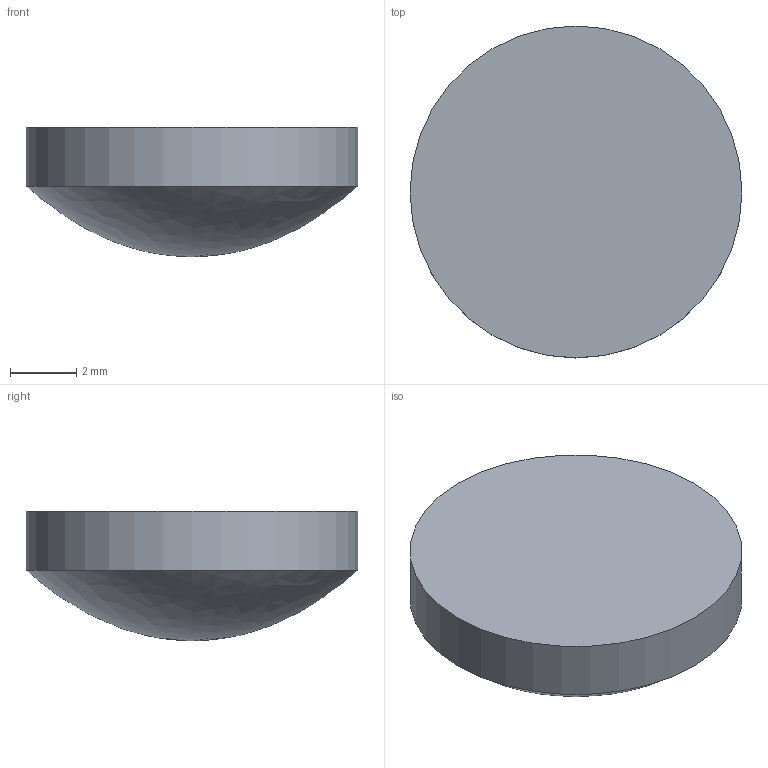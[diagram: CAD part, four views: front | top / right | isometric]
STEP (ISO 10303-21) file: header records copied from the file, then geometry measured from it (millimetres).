
FILE_DESCRIPTION(/* description */ (''),/* implementation_level */ '2;1');
FILE_NAME(/* name */ 'D:\AGL CAD化\780\ZMX⇒STPファイル\Imported Components\AGL-10-G※-08P\AGL-10-G※-08P.stp',/* time_stamp */ '2016-12-07T17:50:01+09:00',/* author */ ('r.osada'),/* organization */ (''),/* preprocessor_version */ 'ST-DEVELOPER v15.6',/* originating_system */ 'Autodesk Inventor 2015',/* authorisation */ '');
FILE_SCHEMA (('AUTOMOTIVE_DESIGN { 1 0 10303 214 3 1 1 }'));
Length unit declared in the file: millimetre
Products named in the file (1): AGL-10-G※-08P
Bounding box: 10 x 10 x 3.9 mm (x, y, z)
Volume: 224.3 mm3; surface area: 226 mm2
Topology: 1 solids, 1 shells, 3 faces, 6 edges, 4 vertices
Faces by surface type: cylinder 1, bspline 1, plane 1
Full cylindrical faces by diameter (mm): 10 x1
Entity records: 203 total; most frequent: CARTESIAN_POINT 132, DIRECTION 10, ORIENTED_EDGE 6, AXIS2_PLACEMENT_3D 5, EDGE_LOOP 4, FACE_OUTER_BOUND 3, VERTEX_POINT 3, EDGE_CURVE 3
